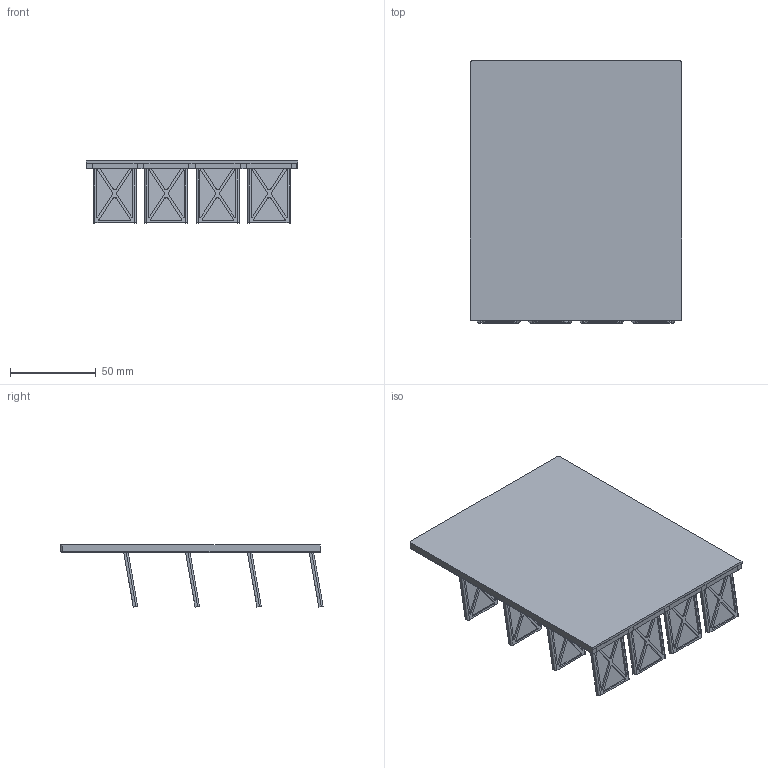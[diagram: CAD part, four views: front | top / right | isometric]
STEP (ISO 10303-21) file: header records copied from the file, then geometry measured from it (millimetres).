
FILE_DESCRIPTION(/* description */ (''),/* implementation_level */ '2;1');
FILE_NAME(/* name */ 'C:/Users/Psykk/3D Objects/Jeux/QuiEstCe/QuiEstCe v9.step',/* time_stamp */ '2021-12-17T12:11:34+01:00',/* author */ (''),/* organization */ (''),/* preprocessor_version */ 'ST-DEVELOPER v18.1',/* originating_system */ 'Autodesk Translation Framework v10.10.0.1391',/* authorisation */ '');
FILE_SCHEMA (('AUTOMOTIVE_DESIGN { 1 0 10303 214 3 1 1 }'));
Length unit declared in the file: millimetre
Products named in the file (1): QuiEstCe
Bounding box: 123 x 152.63 x 36.24 mm (x, y, z)
Volume: 45363.7 mm3; surface area: 91264.8 mm2
Topology: 34 solids, 34 shells, 1152 faces, 3264 edges, 2150 vertices
Faces by surface type: plane 708, cylinder 378, bspline 34, torus 32
Full cylindrical faces by diameter (mm): 1.5 x32, 1.998 x15, 2 x5
Entity records: 39657 total; most frequent: CARTESIAN_POINT 8879, ORIENTED_EDGE 6524, DIRECTION 6337, EDGE_CURVE 3262, LINE 2169, VECTOR 2169, VERTEX_POINT 2150, AXIS2_PLACEMENT_3D 2084
